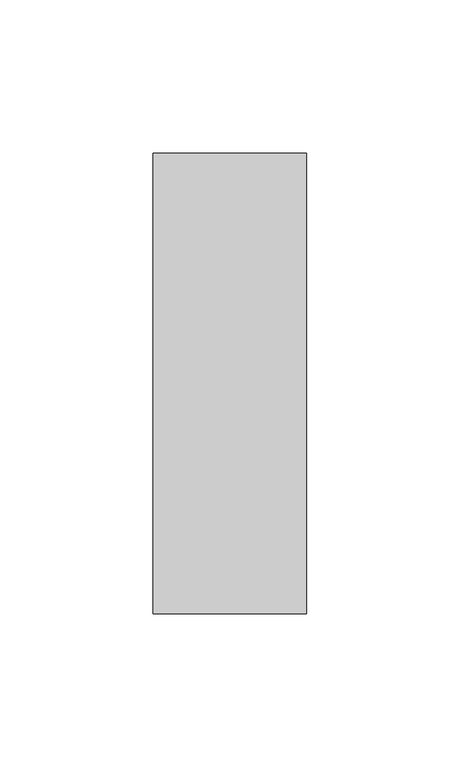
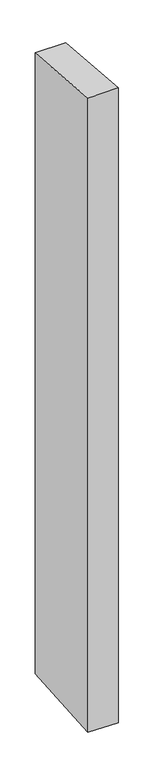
"""IFC4 building model written with IfcOpenShell, lengths in millimetres: member geometry, Прямоугольный импост : 50 x 150 мм."""

from ifc_helpers import new_model, si_unit, origin, place, context, project, spatial, faceted_brep, source, transform, mapped, element, save


def member_3cadd530(model_context):
    return source(origin(), model_context, "Body", "Brep", [
        faceted_brep([(-25.0, 75.0, -6.6489109), (25.0, 75.0, -6.0929623), (25.0, 75.0, -1084.0538717), (-25.0, 75.0, -1083.2879808), (-25.0, -75.0, 6.0929623), (-25.0, -75.0, -1094.0510811), (25.0, -75.0, 6.6489109), (25.0, -75.0, -1094.816972)], [[[0, 1, 2, 3]], [[4, 0, 3, 5]], [[6, 4, 5, 7]], [[1, 6, 7, 2]], [[1, 0, 4, 6]], [[2, 7, 5, 3]]]),
    ])


if __name__ == "__main__":
    model = new_model("IFC4")
    model_context = context("Model", 3, world=origin())
    ifc_project = project(units=[si_unit("LENGTHUNIT", "METRE", prefix="MILLI")], contexts=[model_context])
    site = spatial("IfcSite", under=ifc_project)
    building = spatial("IfcBuilding", under=site)
    placement = place(None, origin())
    member_shape = member_3cadd530(model_context)
    element("IfcMember", 1, ObjectType="Прямоугольный импост : 50 x 150 мм", at=placement, inside=building, context=model_context, shape_type="MappedRepresentation", body=[
        mapped(member_shape, transform((0.0, 0.0, 0.0), x_axis=(1.0, 0.0, 0.0), y_axis=(0.0, 1.0, 0.0), z_axis=(0.0, 0.0, 1.0))),
    ])
    save(model, "model.ifc")
